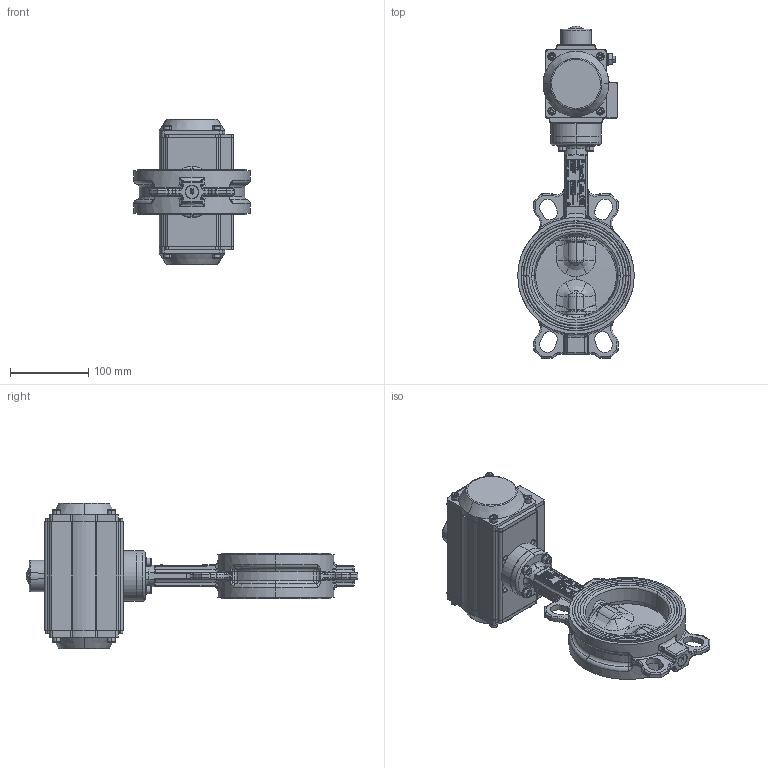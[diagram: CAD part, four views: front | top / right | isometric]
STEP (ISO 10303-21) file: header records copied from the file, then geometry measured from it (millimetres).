
FILE_DESCRIPTION (( 'STEP AP203' ), '1' );
FILE_NAME ('VPN-03 DN100.STEP', '2014-06-20T08:00:01', ( 'FAREX' ), ( '' ), 'SwSTEP 2.0', 'SolidWorks 2011', '' );
FILE_SCHEMA (( 'CONFIG_CONTROL_DESIGN' ));
Products named in the file (1): VPN-03 DN100
Bounding box: 149 x 424.12 x 186 mm (x, y, z)
Volume: 1445612.4 mm3; surface area: 438790.5 mm2
Topology: 68 solids, 68 shells, 5050 faces, 12831 edges, 8285 vertices
Faces by surface type: plane 2155, bspline 1584, cylinder 803, cone 259, torus 209, sphere 40
Entity records: 227672 total; most frequent: CARTESIAN_POINT 115804, ORIENTED_EDGE 25536, DIRECTION 18760, EDGE_CURVE 12768, VERTEX_POINT 8283, LINE 6630, VECTOR 6630, AXIS2_PLACEMENT_3D 6065
